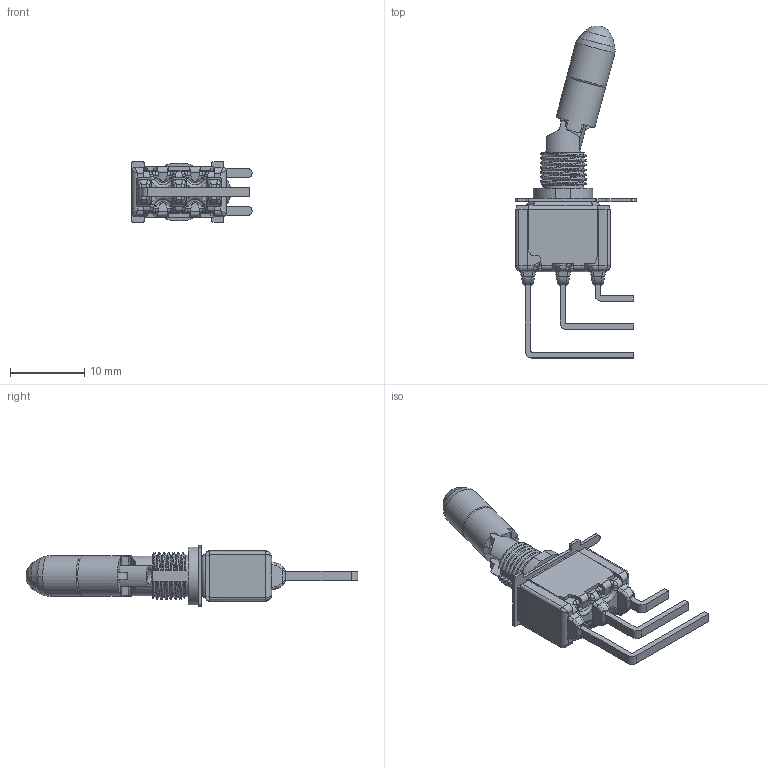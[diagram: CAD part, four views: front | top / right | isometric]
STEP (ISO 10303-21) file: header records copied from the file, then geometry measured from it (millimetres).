
FILE_DESCRIPTION( ( 'STEP AP214' ), '1' );
FILE_NAME( 'p:/temp/worker_52/temp/app_40_02018123019060439500274192d056f_000000_00_00_000000/format_0/7101K2AV2QE.stp', '2018-12-30T18:06:11', ( '' ), ( '' ), ' ', 'PARTsolutions', ' ' );
FILE_SCHEMA( ( 'AUTOMOTIVE_DESIGN { 1 0 10303 214 1 1 1 1 }' ) );
Length unit declared in the file: inch
Products named in the file (2): 7101K2AV2QE; 1
Assembly tree (1 placements, depth 2):
  7101K2AV2QE
    1
Bounding box: 16.21 x 44.63 x 8.13 mm (x, y, z)
Surface area: 2459.9 mm2 (no closed solid volume)
Topology: 0 solids, 833 shells, 836 faces, 4486 edges, 4465 vertices
Faces by surface type: plane 545, cylinder 161, bspline 105, torus 15, cone 9, sphere 1
Full cylindrical faces by diameter (mm): 1.829 x1, 2.311 x1, 3.099 x1, 3.175 x1, 3.861 x1, 4.039 x1, 4.07 x3, 5.385 x1, 5.436 x1
Entity records: 55312 total; most frequent: CARTESIAN_POINT 24085, DIRECTION 5654, VERTEX_POINT 4456, ORIENTED_EDGE 4454, EDGE_CURVE 4454, LINE 3078, VECTOR 3078, AXIS2_PLACEMENT_3D 1288
